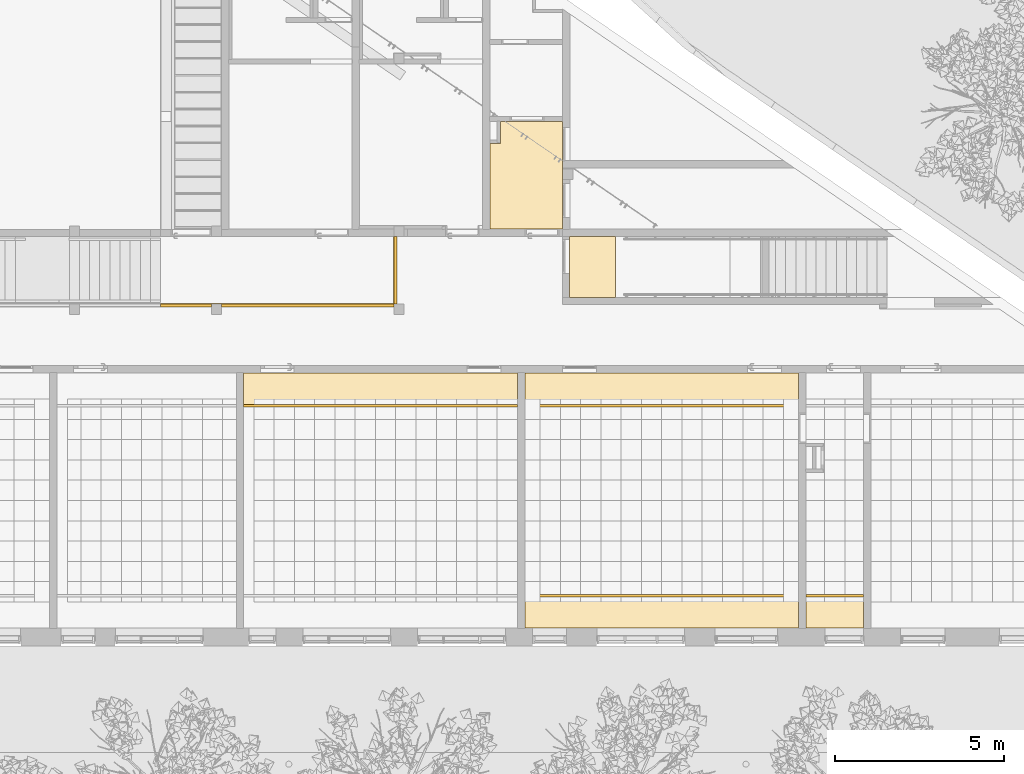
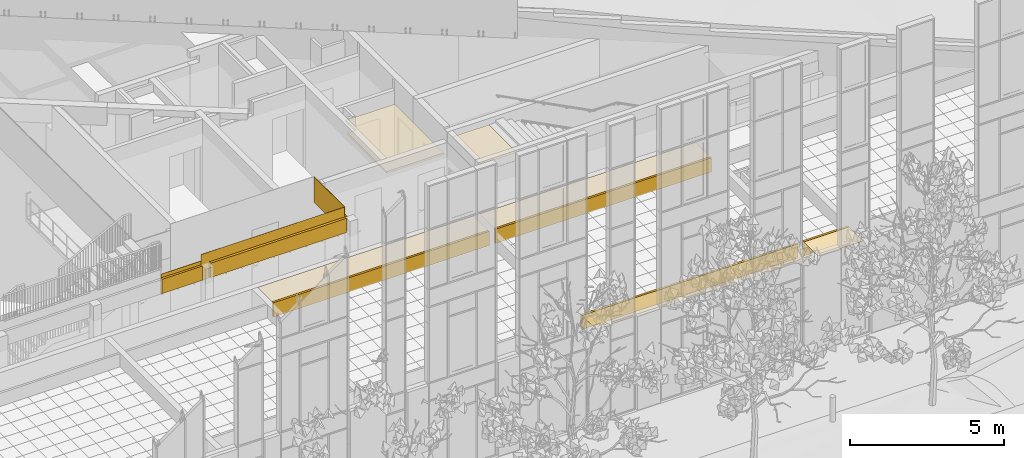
# One storey, part 181 of 246: 13 coverings.
"""IFC2X3 building model written with IfcOpenShell, lengths in millimetres."""

from ifc_helpers import new_model, entity, si_unit, converted_unit, derived_unit, money_unit, direction, frame, origin_with_axes, place, context, subcontext, project, spatial, faceted_brep, material, material_list, type_object, element, save


model = new_model("IFC2X3")

# Units and contexts
model_context = context("Model", 3, precision=0.01, world=origin_with_axes(), true_north=direction((0.0, 1.0)))
body_context = subcontext(model_context, "Body", "Model", "MODEL_VIEW")
ifc_project = project(units=[si_unit("LENGTHUNIT", "METRE", prefix="MILLI"), si_unit("AREAUNIT", "SQUARE_METRE"), si_unit("VOLUMEUNIT", "CUBIC_METRE"), converted_unit("PLANEANGLEUNIT", "DEGREE", entity("IfcPlaneAngleMeasure", 0.0174532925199), si_unit("PLANEANGLEUNIT", "RADIAN"), dimensions=[0, 0, 0, 0, 0, 0, 0]), si_unit("SOLIDANGLEUNIT", "STERADIAN"), money_unit("EUR"), converted_unit("TIMEUNIT", "Year", entity("IfcTimeMeasure", 31556926.0), si_unit("TIMEUNIT", "SECOND"), dimensions=[0, 0, 1, 0, 0, 0, 0]), si_unit("MASSUNIT", "GRAM", prefix="KILO"), si_unit("THERMODYNAMICTEMPERATUREUNIT", "DEGREE_CELSIUS"), si_unit("LUMINOUSINTENSITYUNIT", "LUMEN"), si_unit("ENERGYUNIT", "JOULE", prefix="MEGA"), derived_unit("THERMALCONDUCTANCEUNIT", [(si_unit("POWERUNIT", "WATT"), 1), (si_unit("LENGTHUNIT", "METRE"), -1), (si_unit("THERMODYNAMICTEMPERATUREUNIT", "KELVIN"), -1)]), derived_unit("SPECIFICHEATCAPACITYUNIT", [(si_unit("ENERGYUNIT", "JOULE"), 1), (si_unit("MASSUNIT", "GRAM", prefix="KILO"), -1), (si_unit("THERMODYNAMICTEMPERATUREUNIT", "KELVIN"), -1)]), derived_unit("MASSDENSITYUNIT", [(si_unit("MASSUNIT", "GRAM", prefix="KILO"), 1), (si_unit("VOLUMEUNIT", "CUBIC_METRE"), -1)])], contexts=[model_context])

# Site, building, storey
site_placement = place(None, origin_with_axes())
site = spatial("IfcSite", under=ifc_project, at=site_placement, Name="L.Koidula tn 11b", CompositionType="ELEMENT")
building_placement = place(site_placement, origin_with_axes())
building = spatial("IfcBuilding", under=site, at=building_placement, Name="Rakvere Riigigümnaasium", CompositionType="ELEMENT")
storey_placement = place(building_placement, origin_with_axes())
storey = spatial("IfcBuildingStorey", under=building, at=storey_placement, Name="1.korrus 0,00", CompositionType="ELEMENT", Elevation=0.0)

# Coverings
ifc_material_1 = material(Name="mineraalvill+karkass")
ifc_material_2 = material(Name="SKR-02_Kipsplaat")
ifc_material_list_1 = material_list([ifc_material_1, ifc_material_2])
covering_type_1 = type_object("IfcCoveringType", Name="SA-LV-kips 79", PredefinedType="CEILING")
covering_1_placement = place(storey_placement, frame((74870.015089, 6435.45437174, 2762.5), z_axis=(0.0, 0.0, 1.0), x_axis=(1.0, 0.0, 0.0)))
element("IfcCovering", 1, at=covering_1_placement, inside=storey, type_object=covering_type_1, material=ifc_material_list_1, Name="L-04 vert", PredefinedType="CEILING", context=body_context, shape_type="Brep", body=[
    faceted_brep([(8099.98242188, 12.5, 562.5), (8099.98242188, 78.5, 562.5), (0.0, 78.5, 562.5), (0.0, 12.5, 562.5), (8099.98242188, 12.5, 0.0), (8099.98242188, 78.5, 0.0), (0.0, 78.5, 0.0), (0.0, 12.5, 0.0)], [[[0, 1, 2, 3]], [[0, 4, 5, 1]], [[1, 5, 6, 2]], [[3, 2, 6, 7]], [[4, 0, 3, 7]], [[5, 4, 7, 6]]]),
    faceted_brep([(8099.98242188, 0.0, 562.5), (8099.98242188, 12.5, 562.5), (0.0, 12.5, 562.5), (0.0, 0.0, 562.5), (8099.98242188, 0.0, 0.0), (8099.98242188, 12.5, 0.0), (0.0, 12.5, 0.0), (0.0, 0.0, 0.0)], [[[0, 1, 2, 3]], [[0, 4, 5, 1]], [[1, 5, 6, 2]], [[3, 2, 6, 7]], [[4, 0, 3, 7]], [[5, 4, 7, 6]]]),
])
covering_2_placement = place(storey_placement, frame((74144.4981514, 19860.8917229, 2700.0), z_axis=(0.0, 0.0, 1.0), x_axis=(1.0, 0.0, 0.0)))
element("IfcCovering", 2, at=covering_2_placement, inside=storey, type_object=covering_type_1, material=ifc_material_list_1, Name="L-04", PredefinedType="CEILING", context=body_context, shape_type="Brep", body=[
    faceted_brep([(-304.499998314, 0.0, 12.5), (-304.499998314, 0.0, 78.5), (0.0, 0.0, 78.5), (0.0, 0.0, 12.5), (-304.499998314, -2540.43620038, 12.5), (-304.499998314, -2540.43620038, 78.5), (1835.25951302, -2540.43620038, 78.5), (1835.36865245, 649.50193628, 78.5), (0.0, 649.50193628, 78.5), (0.0, 649.50193628, 12.5), (1835.36865245, 649.50193628, 12.5), (1835.25951302, -2540.43620038, 12.5)], [[[0, 1, 2, 3]], [[4, 5, 1, 0]], [[2, 1, 5, 6, 7, 8]], [[3, 2, 8, 9]], [[3, 9, 10, 11, 4, 0]], [[11, 6, 5, 4]], [[10, 7, 6, 11]], [[9, 8, 7, 10]]]),
    faceted_brep([(0.0, 0.0, 0.0), (-304.499998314, 0.0, 0.0), (-304.499998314, 0.0, 12.5), (0.0, 0.0, 12.5), (0.0, 649.50193628, 0.0), (1835.36865245, 649.50193628, 0.0), (1835.25951302, -2540.43620038, 0.0), (-304.499998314, -2540.43620038, 0.0), (-304.499998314, -2540.43620038, 12.5), (1835.25951302, -2540.43620038, 12.5), (1835.36865245, 649.50193628, 12.5), (0.0, 649.50193628, 12.5)], [[[0, 1, 2, 3]], [[0, 4, 5, 6, 7, 1]], [[1, 7, 8, 2]], [[3, 2, 8, 9, 10, 11]], [[4, 0, 3, 11]], [[5, 4, 11, 10]], [[6, 5, 10, 9]], [[7, 6, 9, 8]]]),
])
covering_3_placement = place(storey_placement, frame((83189.9917918, 6435.45437174, 2762.5), z_axis=(0.0, 0.0, 1.0), x_axis=(1.0, 0.0, 0.0)))
element("IfcCovering", 3, at=covering_3_placement, inside=storey, type_object=covering_type_1, material=ifc_material_list_1, Name="L-04 vert", PredefinedType="CEILING", context=body_context, shape_type="Brep", body=[
    faceted_brep([(1699.99356132, 12.5, 562.5), (1699.99356132, 78.5, 562.5), (0.0, 78.5, 562.5), (0.0, 12.5, 562.5), (1699.99356132, 12.5, 0.0), (1699.99356132, 78.5, 0.0), (0.0, 78.5, 0.0), (0.0, 12.5, 0.0)], [[[0, 1, 2, 3]], [[0, 4, 5, 1]], [[1, 5, 6, 2]], [[3, 2, 6, 7]], [[4, 0, 3, 7]], [[5, 4, 7, 6]]]),
    faceted_brep([(1699.99356132, 0.0, 562.5), (1699.99356132, 12.5, 562.5), (0.0, 12.5, 562.5), (0.0, 0.0, 562.5), (1699.99356132, 0.0, 0.0), (1699.99356132, 12.5, 0.0), (0.0, 12.5, 0.0), (0.0, 0.0, 0.0)], [[[0, 1, 2, 3]], [[0, 4, 5, 1]], [[1, 5, 6, 2]], [[3, 2, 6, 7]], [[4, 0, 3, 7]], [[5, 4, 7, 6]]]),
])
covering_4_placement = place(storey_placement, frame((82969.9975109, 12135.4543717, 2762.5), z_axis=(0.0, 0.0, 1.0), x_axis=(-1.0, 0.0, 0.0)))
element("IfcCovering", 4, at=covering_4_placement, inside=storey, type_object=covering_type_1, material=ifc_material_list_1, Name="L-04 vert", PredefinedType="CEILING", context=body_context, shape_type="Brep", body=[
    faceted_brep([(8099.98242188, 12.5, 562.5), (8099.98242188, 78.5, 562.5), (0.0, 78.5, 562.5), (0.0, 12.5, 562.5), (8099.98242188, 12.5, 0.0), (8099.98242188, 78.5, 0.0), (0.0, 78.5, 0.0), (0.0, 12.5, 0.0)], [[[0, 1, 2, 3]], [[0, 4, 5, 1]], [[1, 5, 6, 2]], [[3, 2, 6, 7]], [[4, 0, 3, 7]], [[5, 4, 7, 6]]]),
    faceted_brep([(8099.98242188, 0.0, 562.5), (8099.98242188, 12.5, 562.5), (0.0, 12.5, 562.5), (0.0, 0.0, 562.5), (8099.98242188, 0.0, 0.0), (8099.98242188, 12.5, 0.0), (0.0, 12.5, 0.0), (0.0, 0.0, 0.0)], [[[0, 1, 2, 3]], [[0, 4, 5, 1]], [[1, 5, 6, 2]], [[3, 2, 6, 7]], [[4, 0, 3, 7]], [[5, 4, 7, 6]]]),
])
covering_5_placement = place(storey_placement, frame((74650.015089, 12135.4543717, 2762.5), z_axis=(0.0, 0.0, 1.0), x_axis=(-1.0, 0.0, 0.0)))
element("IfcCovering", 5, at=covering_5_placement, inside=storey, type_object=covering_type_1, material=ifc_material_list_1, Name="L-04 vert", PredefinedType="CEILING", context=body_context, shape_type="Brep", body=[
    faceted_brep([(8100.00015633, 12.5, 562.5), (8100.00015633, 78.5, 562.5), (0.0, 78.5, 562.5), (0.0, 12.5, 562.5), (8100.00015633, 12.5, 0.0), (8100.00015633, 78.5, 0.0), (0.0, 78.5, 0.0), (0.0, 12.5, 0.0)], [[[0, 1, 2, 3]], [[0, 4, 5, 1]], [[1, 5, 6, 2]], [[3, 2, 6, 7]], [[4, 0, 3, 7]], [[5, 4, 7, 6]]]),
    faceted_brep([(8100.00015633, 0.0, 562.5), (8100.00015633, 12.5, 562.5), (0.0, 12.5, 562.5), (0.0, 0.0, 562.5), (8100.00015633, 0.0, 0.0), (8100.00015633, 12.5, 0.0), (0.0, 12.5, 0.0), (0.0, 0.0, 0.0)], [[[0, 1, 2, 3]], [[0, 4, 5, 1]], [[1, 5, 6, 2]], [[3, 2, 6, 7]], [[4, 0, 3, 7]], [[5, 4, 7, 6]]]),
])
ifc_material_3 = material(Name="Karkass")
ifc_material_4 = material(Name="Kipsplaat")
ifc_material_5 = material(Name="Alumiiniumprofiil")
ifc_material_6 = material(Name="Keraamiline plaat valge")
ifc_material_list_2 = material_list([ifc_material_3, ifc_material_4, ifc_material_5, ifc_material_5, ifc_material_6])
covering_type_2 = type_object("IfcCoveringType", Name="SA-Pinnakate-Ker 99", PredefinedType="CEILING")
covering_6_placement = place(storey_placement, frame((65599.9980729, 15100.4785302, 2700.0), z_axis=(0.0, 0.0, 1.0), x_axis=(-1.0, 0.0, 0.0)))
element("IfcCovering", 6, at=covering_6_placement, inside=storey, type_object=covering_type_2, material=ifc_material_list_2, Name="Pinnakate-keraamiline", PredefinedType="CEILING", context=body_context, shape_type="Brep", body=[
    faceted_brep([(1502.5, 17.5, 0.0), (1502.5, 17.5, 12.0), (1497.5, 17.5, 12.0), (1497.5, 17.5, 0.0), (1502.5, 83.5, 0.0), (1502.5, 83.5, 12.0), (1497.5, 83.5, 12.0), (1497.5, 83.5, 0.0)], [[[0, 1, 2, 3]], [[1, 0, 4, 5]], [[2, 1, 5, 6]], [[3, 2, 6, 7]], [[4, 0, 3, 7]], [[5, 4, 7, 6]]]),
    faceted_brep([(0.0, 83.5, 54.5), (0.0, 17.5, 54.5), (0.0, 17.5, 625.0), (0.0, 83.5, 625.0), (1509.99807258, 17.5, 54.5), (1509.99807258, 83.5, 54.5), (1509.99807258, 17.5, 625.0), (1509.99807258, 83.5, 625.0)], [[[0, 1, 2, 3]], [[4, 1, 0, 5]], [[1, 4, 6, 2]], [[6, 7, 3, 2]], [[5, 0, 3, 7]], [[4, 5, 7, 6]]]),
    faceted_brep([(902.5, 17.5, 0.0), (902.5, 17.5, 12.0), (897.5, 17.5, 12.0), (897.5, 17.5, 0.0), (902.5, 83.5, 0.0), (902.5, 83.5, 12.0), (897.5, 83.5, 12.0), (897.5, 83.5, 0.0)], [[[0, 1, 2, 3]], [[1, 0, 4, 5]], [[2, 1, 5, 6]], [[3, 2, 6, 7]], [[4, 0, 3, 7]], [[5, 4, 7, 6]]]),
    faceted_brep([(302.5, 17.5, 0.0), (302.5, 17.5, 12.0), (297.5, 17.5, 12.0), (297.5, 17.5, 0.0), (302.5, 83.5, 0.0), (302.5, 83.5, 12.0), (297.5, 83.5, 12.0), (297.5, 83.5, 0.0)], [[[0, 1, 2, 3]], [[1, 0, 4, 5]], [[2, 1, 5, 6]], [[3, 2, 6, 7]], [[4, 0, 3, 7]], [[5, 4, 7, 6]]]),
    faceted_brep([(1502.5, 5.0, 0.0), (1502.5, 5.0, 12.0), (1497.5, 5.0, 12.0), (1497.5, 5.0, 0.0), (1502.5, 17.5, 0.0), (1502.5, 17.5, 12.0), (1497.5, 17.5, 12.0), (1497.5, 17.5, 0.0)], [[[0, 1, 2, 3]], [[1, 0, 4, 5]], [[2, 1, 5, 6]], [[3, 2, 6, 7]], [[4, 0, 3, 7]], [[5, 4, 7, 6]]]),
    faceted_brep([(0.0, 17.5, 54.5), (0.0, 5.0, 54.5), (0.0, 5.0, 625.0), (0.0, 17.5, 625.0), (1509.99807258, 5.0, 54.5), (1509.99807258, 17.5, 54.5), (1509.99807258, 5.0, 625.0), (1509.99807258, 17.5, 625.0)], [[[0, 1, 2, 3]], [[4, 1, 0, 5]], [[1, 4, 6, 2]], [[6, 7, 3, 2]], [[5, 0, 3, 7]], [[4, 5, 7, 6]]]),
    faceted_brep([(902.5, 5.0, 0.0), (902.5, 5.0, 12.0), (897.5, 5.0, 12.0), (897.5, 5.0, 0.0), (902.5, 17.5, 0.0), (902.5, 17.5, 12.0), (897.5, 17.5, 12.0), (897.5, 17.5, 0.0)], [[[0, 1, 2, 3]], [[1, 0, 4, 5]], [[2, 1, 5, 6]], [[3, 2, 6, 7]], [[4, 0, 3, 7]], [[5, 4, 7, 6]]]),
    faceted_brep([(302.5, 5.0, 0.0), (302.5, 5.0, 12.0), (297.5, 5.0, 12.0), (297.5, 5.0, 0.0), (302.5, 17.5, 0.0), (302.5, 17.5, 12.0), (297.5, 17.5, 12.0), (297.5, 17.5, 0.0)], [[[0, 1, 2, 3]], [[1, 0, 4, 5]], [[2, 1, 5, 6]], [[3, 2, 6, 7]], [[4, 0, 3, 7]], [[5, 4, 7, 6]]]),
    faceted_brep([(1509.99807258, 0.0230084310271, 54.5), (1509.99807258, 0.0230084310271, 0.0), (1502.5, 0.0230084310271, 0.0), (1502.5, 0.023411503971, 12.0), (1497.5, 0.0234101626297, 12.0), (1497.5, 0.0230084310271, 0.0), (902.5, 0.0230084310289, 0.0), (902.5, 0.0232505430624, 12.0), (897.5, 0.0232492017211, 12.0), (897.5, 0.0230084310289, 0.0), (302.5, 0.0230084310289, 0.0), (302.5, 0.0230895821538, 12.0), (297.5, 0.0230882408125, 12.0), (297.5, 0.0230084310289, 0.0), (0.0, 0.0230084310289, 0.0), (0.0, 0.0230084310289, 54.5), (1509.99807258, 5.0, 54.5), (1509.99807258, 5.0, 625.0), (1509.99807258, 0.0, 625.0), (1509.99807258, 0.0, 0.0), (0.0, 0.0, 0.0), (297.5, 5.0, 0.0), (302.5, 5.0, 0.0), (897.5, 5.0, 0.0), (902.5, 5.0, 0.0), (1497.5, 5.0, 0.0), (1502.5, 5.0, 0.0), (1502.5, 5.0, 12.0), (1497.5, 5.0, 12.0), (902.5, 5.0, 12.0), (897.5, 5.0, 12.0), (302.5, 5.0, 12.0), (297.5, 5.0, 12.0), (0.0, 0.0, 625.0), (0.0, 5.0, 625.0), (0.0, 5.0, 54.5)], [[[0, 1, 2, 3, 4, 5, 6, 7, 8, 9, 10, 11, 12, 13, 14, 15]], [[1, 0, 16, 17, 18, 19]], [[2, 1, 19, 20, 14, 13, 21, 22, 10, 9, 23, 24, 6, 5, 25, 26]], [[2, 26, 27, 3]], [[27, 28, 4, 3]], [[25, 5, 4, 28]], [[6, 24, 29, 7]], [[29, 30, 8, 7]], [[23, 9, 8, 30]], [[10, 22, 31, 11]], [[31, 32, 12, 11]], [[21, 13, 12, 32]], [[14, 20, 33, 34, 35, 15]], [[15, 35, 16, 0]], [[16, 35, 34, 17]], [[18, 17, 34, 33]], [[20, 19, 18, 33]], [[31, 22, 21, 32]], [[29, 24, 23, 30]], [[27, 26, 25, 28]]]),
    faceted_brep([(1509.99807258, -10.0, 0.0), (0.0, -10.0, 0.0), (0.0, 0.0, 0.0), (1509.99807258, 0.0, 0.0), (1509.99807258, -10.0, 770.0), (0.0, -10.0, 770.0), (0.0, 0.0, 770.0), (1509.99807258, 0.0, 770.0)], [[[0, 1, 2, 3]], [[4, 5, 1, 0]], [[1, 5, 6, 2]], [[3, 2, 6, 7]], [[7, 4, 0, 3]], [[7, 6, 5, 4]]]),
    faceted_brep([(0.0, -15.0, 0.0), (0.0, -10.0, 0.0), (1509.99807258, -10.0, 0.0), (1509.99807258, -15.0, 0.0), (0.0, -15.0, 770.0), (0.0, -10.0, 770.0), (1509.99807258, -10.0, 770.0), (1509.99807258, -15.0, 770.0)], [[[0, 1, 2, 3]], [[4, 5, 1, 0]], [[1, 5, 6, 2]], [[7, 3, 2, 6]], [[4, 0, 3, 7]], [[5, 4, 7, 6]]]),
])
covering_7_placement = place(storey_placement, frame((70999.9980729, 15100.4785302, 2700.0), z_axis=(0.0, 0.0, 1.0), x_axis=(-1.0, 0.0, 0.0)))
element("IfcCovering", 7, at=covering_7_placement, inside=storey, type_object=covering_type_2, material=ifc_material_list_2, Name="Pinnakate-keraamiline", PredefinedType="CEILING", context=body_context, shape_type="Brep", body=[
    faceted_brep([(5097.5, 17.5, 12.0), (5097.5, 17.5, 0.0), (5100.0, 17.5, 0.0), (5100.0, 17.5, 12.0), (5097.5, 83.5, 12.0), (5097.5, 83.5, 0.0), (5100.0, 83.5, 0.0), (5100.0, 83.5, 12.0)], [[[0, 1, 2, 3]], [[1, 0, 4, 5]], [[1, 5, 6, 2]], [[7, 3, 2, 6]], [[0, 3, 7, 4]], [[4, 7, 6, 5]]]),
    faceted_brep([(0.0, 83.5, 54.5), (0.0, 17.5, 54.5), (0.0, 17.5, 625.0), (0.0, 83.5, 625.0), (5100.0, 17.5, 54.5), (5100.0, 83.5, 54.5), (5100.0, 17.5, 625.0), (5100.0, 83.5, 625.0)], [[[0, 1, 2, 3]], [[4, 1, 0, 5]], [[1, 4, 6, 2]], [[7, 3, 2, 6]], [[5, 0, 3, 7]], [[4, 5, 7, 6]]]),
    faceted_brep([(4502.5, 17.5, 0.0), (4502.5, 17.5, 12.0), (4497.5, 17.5, 12.0), (4497.5, 17.5, 0.0), (4502.5, 83.5, 0.0), (4502.5, 83.5, 12.0), (4497.5, 83.5, 12.0), (4497.5, 83.5, 0.0)], [[[0, 1, 2, 3]], [[1, 0, 4, 5]], [[2, 1, 5, 6]], [[3, 2, 6, 7]], [[4, 0, 3, 7]], [[5, 4, 7, 6]]]),
    faceted_brep([(3902.5, 17.5, 0.0), (3902.5, 17.5, 12.0), (3897.5, 17.5, 12.0), (3897.5, 17.5, 0.0), (3902.5, 83.5, 0.0), (3902.5, 83.5, 12.0), (3897.5, 83.5, 12.0), (3897.5, 83.5, 0.0)], [[[0, 1, 2, 3]], [[1, 0, 4, 5]], [[2, 1, 5, 6]], [[3, 2, 6, 7]], [[4, 0, 3, 7]], [[5, 4, 7, 6]]]),
    faceted_brep([(3302.5, 17.5, 0.0), (3302.5, 17.5, 12.0), (3297.5, 17.5, 12.0), (3297.5, 17.5, 0.0), (3302.5, 83.5, 0.0), (3302.5, 83.5, 12.0), (3297.5, 83.5, 12.0), (3297.5, 83.5, 0.0)], [[[0, 1, 2, 3]], [[1, 0, 4, 5]], [[2, 1, 5, 6]], [[3, 2, 6, 7]], [[4, 0, 3, 7]], [[5, 4, 7, 6]]]),
    faceted_brep([(2702.5, 17.5, 0.0), (2702.5, 17.5, 12.0), (2697.5, 17.5, 12.0), (2697.5, 17.5, 0.0), (2702.5, 83.5, 0.0), (2702.5, 83.5, 12.0), (2697.5, 83.5, 12.0), (2697.5, 83.5, 0.0)], [[[0, 1, 2, 3]], [[1, 0, 4, 5]], [[2, 1, 5, 6]], [[3, 2, 6, 7]], [[4, 0, 3, 7]], [[5, 4, 7, 6]]]),
    faceted_brep([(2102.5, 17.5, 0.0), (2102.5, 17.5, 12.0), (2097.5, 17.5, 12.0), (2097.5, 17.5, 0.0), (2102.5, 83.5, 0.0), (2102.5, 83.5, 12.0), (2097.5, 83.5, 12.0), (2097.5, 83.5, 0.0)], [[[0, 1, 2, 3]], [[1, 0, 4, 5]], [[2, 1, 5, 6]], [[3, 2, 6, 7]], [[4, 0, 3, 7]], [[5, 4, 7, 6]]]),
    faceted_brep([(1502.5, 17.5, 0.0), (1502.5, 17.5, 12.0), (1497.5, 17.5, 12.0), (1497.5, 17.5, 0.0), (1502.5, 83.5, 0.0), (1502.5, 83.5, 12.0), (1497.5, 83.5, 12.0), (1497.5, 83.5, 0.0)], [[[0, 1, 2, 3]], [[1, 0, 4, 5]], [[2, 1, 5, 6]], [[3, 2, 6, 7]], [[4, 0, 3, 7]], [[5, 4, 7, 6]]]),
    faceted_brep([(902.5, 17.5, 0.0), (902.5, 17.5, 12.0), (897.5, 17.5, 12.0), (897.5, 17.5, 0.0), (902.5, 83.5, 0.0), (902.5, 83.5, 12.0), (897.5, 83.5, 12.0), (897.5, 83.5, 0.0)], [[[0, 1, 2, 3]], [[1, 0, 4, 5]], [[2, 1, 5, 6]], [[3, 2, 6, 7]], [[4, 0, 3, 7]], [[5, 4, 7, 6]]]),
    faceted_brep([(302.5, 17.5, 0.0), (302.5, 17.5, 12.0), (297.5, 17.5, 12.0), (297.5, 17.5, 0.0), (302.5, 83.5, 0.0), (302.5, 83.5, 12.0), (297.5, 83.5, 12.0), (297.5, 83.5, 0.0)], [[[0, 1, 2, 3]], [[1, 0, 4, 5]], [[2, 1, 5, 6]], [[3, 2, 6, 7]], [[4, 0, 3, 7]], [[5, 4, 7, 6]]]),
    faceted_brep([(5097.5, 5.0, 12.0), (5097.5, 5.0, 0.0), (5100.0, 5.0, 0.0), (5100.0, 5.0, 12.0), (5097.5, 17.5, 12.0), (5097.5, 17.5, 0.0), (5100.0, 17.5, 0.0), (5100.0, 17.5, 12.0)], [[[0, 1, 2, 3]], [[1, 0, 4, 5]], [[1, 5, 6, 2]], [[7, 3, 2, 6]], [[0, 3, 7, 4]], [[4, 7, 6, 5]]]),
    faceted_brep([(0.0, 17.5, 54.5), (0.0, 5.0, 54.5), (0.0, 5.0, 625.0), (0.0, 17.5, 625.0), (5100.0, 5.0, 54.5), (5100.0, 17.5, 54.5), (5100.0, 5.0, 625.0), (5100.0, 17.5, 625.0)], [[[0, 1, 2, 3]], [[4, 1, 0, 5]], [[1, 4, 6, 2]], [[7, 3, 2, 6]], [[5, 0, 3, 7]], [[4, 5, 7, 6]]]),
    faceted_brep([(4502.5, 5.0, 0.0), (4502.5, 5.0, 12.0), (4497.5, 5.0, 12.0), (4497.5, 5.0, 0.0), (4502.5, 17.5, 0.0), (4502.5, 17.5, 12.0), (4497.5, 17.5, 12.0), (4497.5, 17.5, 0.0)], [[[0, 1, 2, 3]], [[1, 0, 4, 5]], [[2, 1, 5, 6]], [[3, 2, 6, 7]], [[4, 0, 3, 7]], [[5, 4, 7, 6]]]),
    faceted_brep([(3902.5, 5.0, 0.0), (3902.5, 5.0, 12.0), (3897.5, 5.0, 12.0), (3897.5, 5.0, 0.0), (3902.5, 17.5, 0.0), (3902.5, 17.5, 12.0), (3897.5, 17.5, 12.0), (3897.5, 17.5, 0.0)], [[[0, 1, 2, 3]], [[1, 0, 4, 5]], [[2, 1, 5, 6]], [[3, 2, 6, 7]], [[4, 0, 3, 7]], [[5, 4, 7, 6]]]),
    faceted_brep([(3302.5, 5.0, 0.0), (3302.5, 5.0, 12.0), (3297.5, 5.0, 12.0), (3297.5, 5.0, 0.0), (3302.5, 17.5, 0.0), (3302.5, 17.5, 12.0), (3297.5, 17.5, 12.0), (3297.5, 17.5, 0.0)], [[[0, 1, 2, 3]], [[1, 0, 4, 5]], [[2, 1, 5, 6]], [[3, 2, 6, 7]], [[4, 0, 3, 7]], [[5, 4, 7, 6]]]),
    faceted_brep([(2702.5, 5.0, 0.0), (2702.5, 5.0, 12.0), (2697.5, 5.0, 12.0), (2697.5, 5.0, 0.0), (2702.5, 17.5, 0.0), (2702.5, 17.5, 12.0), (2697.5, 17.5, 12.0), (2697.5, 17.5, 0.0)], [[[0, 1, 2, 3]], [[1, 0, 4, 5]], [[2, 1, 5, 6]], [[3, 2, 6, 7]], [[4, 0, 3, 7]], [[5, 4, 7, 6]]]),
    faceted_brep([(2102.5, 5.0, 0.0), (2102.5, 5.0, 12.0), (2097.5, 5.0, 12.0), (2097.5, 5.0, 0.0), (2102.5, 17.5, 0.0), (2102.5, 17.5, 12.0), (2097.5, 17.5, 12.0), (2097.5, 17.5, 0.0)], [[[0, 1, 2, 3]], [[1, 0, 4, 5]], [[2, 1, 5, 6]], [[3, 2, 6, 7]], [[4, 0, 3, 7]], [[5, 4, 7, 6]]]),
    faceted_brep([(1502.5, 5.0, 0.0), (1502.5, 5.0, 12.0), (1497.5, 5.0, 12.0), (1497.5, 5.0, 0.0), (1502.5, 17.5, 0.0), (1502.5, 17.5, 12.0), (1497.5, 17.5, 12.0), (1497.5, 17.5, 0.0)], [[[0, 1, 2, 3]], [[1, 0, 4, 5]], [[2, 1, 5, 6]], [[3, 2, 6, 7]], [[4, 0, 3, 7]], [[5, 4, 7, 6]]]),
    faceted_brep([(902.5, 5.0, 0.0), (902.5, 5.0, 12.0), (897.5, 5.0, 12.0), (897.5, 5.0, 0.0), (902.5, 17.5, 0.0), (902.5, 17.5, 12.0), (897.5, 17.5, 12.0), (897.5, 17.5, 0.0)], [[[0, 1, 2, 3]], [[1, 0, 4, 5]], [[2, 1, 5, 6]], [[3, 2, 6, 7]], [[4, 0, 3, 7]], [[5, 4, 7, 6]]]),
    faceted_brep([(302.5, 5.0, 0.0), (302.5, 5.0, 12.0), (297.5, 5.0, 12.0), (297.5, 5.0, 0.0), (302.5, 17.5, 0.0), (302.5, 17.5, 12.0), (297.5, 17.5, 12.0), (297.5, 17.5, 0.0)], [[[0, 1, 2, 3]], [[1, 0, 4, 5]], [[2, 1, 5, 6]], [[3, 2, 6, 7]], [[4, 0, 3, 7]], [[5, 4, 7, 6]]]),
    faceted_brep([(5097.5, 5.0, 0.0), (5100.0, 5.0, 0.0), (5100.0, 0.0, 0.0), (5097.5, 0.0, 0.0), (5097.5, 5.0, 12.0), (5100.0, 5.0, 12.0), (5100.0, 0.0, 12.0), (5097.5, 0.00136749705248, 12.0)], [[[0, 1, 2, 3]], [[1, 0, 4, 5]], [[1, 5, 6, 2]], [[6, 7, 3, 2]], [[4, 0, 3, 7]], [[5, 4, 7, 6]]]),
    faceted_brep([(4497.5, 5.0, 0.0), (4502.5, 5.0, 0.0), (4502.5, 0.0, 0.0), (4497.5, 0.0, 0.0), (4497.5, 5.0, 12.0), (4502.5, 5.0, 12.0), (4502.5, 0.00120787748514, 12.0), (4497.5, 0.00120653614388, 12.0)], [[[0, 1, 2, 3]], [[1, 0, 4, 5]], [[1, 5, 6, 2]], [[7, 3, 2, 6]], [[4, 0, 3, 7]], [[5, 4, 7, 6]]]),
    faceted_brep([(3902.5, 5.0, 0.0), (3902.5, 0.0, 0.0), (3897.5, 0.0, 0.0), (3897.5, 5.0, 0.0), (3902.5, 5.0, 12.0), (3902.5, 0.00104691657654, 12.0), (3897.5, 0.00104557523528, 12.0), (3897.5, 5.0, 12.0)], [[[0, 1, 2, 3]], [[1, 0, 4, 5]], [[1, 5, 6, 2]], [[7, 3, 2, 6]], [[4, 0, 3, 7]], [[4, 7, 6, 5]]]),
    faceted_brep([(3297.5, 5.0, 0.0), (3302.5, 5.0, 0.0), (3302.5, 0.0, 0.0), (3297.5, 0.0, 0.0), (3302.5, 5.0, 12.0), (3297.5, 5.0, 12.0), (3302.5, 0.00088595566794, 12.0), (3297.5, 0.000884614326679, 12.0)], [[[0, 1, 2, 3]], [[4, 1, 0, 5]], [[1, 4, 6, 2]], [[6, 7, 3, 2]], [[5, 0, 3, 7]], [[4, 5, 7, 6]]]),
    faceted_brep([(2702.5, 5.0, 0.0), (2702.5, 0.0, 0.0), (2697.5, 0.0, 0.0), (2697.5, 5.0, 0.0), (2702.5, 5.0, 12.0), (2702.5, 0.000724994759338, 12.0), (2697.5, 0.000723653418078, 12.0), (2697.5, 5.0, 12.0)], [[[0, 1, 2, 3]], [[1, 0, 4, 5]], [[1, 5, 6, 2]], [[7, 3, 2, 6]], [[4, 0, 3, 7]], [[6, 5, 4, 7]]]),
    faceted_brep([(2102.5, 0.000564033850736, 12.0), (2097.5, 0.000562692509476, 12.0), (2097.5, 0.0, 0.0), (2102.5, 0.0, 0.0), (2102.5, 5.0, 12.0), (2097.5, 5.0, 12.0), (2097.5, 5.0, 0.0), (2102.5, 5.0, 0.0)], [[[0, 1, 2, 3]], [[4, 5, 1, 0]], [[5, 6, 2, 1]], [[6, 7, 3, 2]], [[7, 4, 0, 3]], [[4, 7, 6, 5]]]),
    faceted_brep([(1502.5, 5.0, 0.0), (1502.5, 0.0, 0.0), (1497.5, 0.0, 0.0), (1497.5, 5.0, 0.0), (1502.5, 5.0, 12.0), (1502.5, 0.000403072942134, 12.0), (1497.5, 0.000401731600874, 12.0), (1497.5, 5.0, 12.0)], [[[0, 1, 2, 3]], [[0, 4, 5, 1]], [[5, 6, 2, 1]], [[7, 3, 2, 6]], [[4, 0, 3, 7]], [[4, 7, 6, 5]]]),
    faceted_brep([(897.5, 5.0, 0.0), (902.5, 5.0, 0.0), (902.5, 0.0, 0.0), (897.5, 0.0, 0.0), (897.5, 5.0, 12.0), (902.5, 5.0, 12.0), (902.5, 0.000242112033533, 12.0), (897.5, 0.000240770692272, 12.0)], [[[0, 1, 2, 3]], [[1, 0, 4, 5]], [[1, 5, 6, 2]], [[6, 7, 3, 2]], [[4, 0, 3, 7]], [[5, 4, 7, 6]]]),
    faceted_brep([(297.5, 5.0, 0.0), (302.5, 5.0, 0.0), (302.5, 0.0, 0.0), (297.5, 0.0, 0.0), (297.5, 5.0, 12.0), (302.5, 5.0, 12.0), (302.5, 8.1151124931e-05, 12.0), (297.5, 7.98097836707e-05, 12.0)], [[[0, 1, 2, 3]], [[0, 4, 5, 1]], [[1, 5, 6, 2]], [[2, 6, 7, 3]], [[4, 0, 3, 7]], [[5, 4, 7, 6]]]),
    faceted_brep([(5100.0, 5.0, 54.5), (5100.0, 5.0, 625.0), (5100.0, 0.0, 625.0), (5100.0, 0.0, 54.5), (5100.0, 0.0230084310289, 54.5), (0.0, 5.0, 54.5), (0.0, 5.0, 625.0), (0.0, 0.0, 625.0), (0.0, 0.0, 54.5)], [[[0, 1, 2, 3, 4]], [[1, 0, 5, 6]], [[2, 1, 6, 7]], [[3, 2, 7, 8]], [[0, 4, 3, 8, 5]], [[6, 5, 8, 7]]]),
    faceted_brep([(5400.0, 0.0, 0.0), (5400.0, -10.0, 0.0), (0.0, -10.0, 0.0), (0.0, 0.0, 0.0), (5400.0, 0.0, 1020.0), (5400.0, -10.0, 1020.0), (5100.00007033, -10.0, 1020.0), (5100.00007033, -10.0, 625.0), (0.0, -10.0, 625.0), (0.0, 0.0, 625.0), (5100.00007033, 0.0, 625.0), (5100.00007033, 0.0, 1020.0)], [[[0, 1, 2, 3]], [[0, 4, 5, 1]], [[1, 5, 6, 7, 8, 2]], [[9, 3, 2, 8]], [[4, 0, 3, 9, 10, 11]], [[4, 11, 6, 5]], [[11, 10, 7, 6]], [[7, 10, 9, 8]]]),
    faceted_brep([(10.0, -15.0, 0.0), (10.0, -10.0, 0.0), (5400.0, -10.0, 0.0), (5400.0, -15.0, 0.0), (10.0, -15.0, 1020.0), (10.0, -10.0, 1020.0), (5400.0, -10.0, 1020.0), (5400.0, -15.0, 1020.0)], [[[0, 1, 2, 3]], [[4, 5, 1, 0]], [[1, 5, 6, 2]], [[7, 3, 2, 6]], [[4, 0, 3, 7]], [[5, 4, 7, 6]]]),
])
ifc_material_list_3 = material_list([ifc_material_6, ifc_material_5, ifc_material_5, ifc_material_4, ifc_material_3])
covering_8_placement = place(storey_placement, frame((70999.9980729, 15100.4785302, 2700.0), z_axis=(0.0, 0.0, 1.0), x_axis=(0.0, 1.0, 0.0)))
element("IfcCovering", 8, at=covering_8_placement, inside=storey, type_object=covering_type_2, material=ifc_material_list_3, Name="Pinnakate-keraamiline", PredefinedType="CEILING", context=body_context, shape_type="Brep", body=[
    faceted_brep([(15.0, 15.0, 1020.0), (15.0, 10.0, 1020.0), (1999.97696827, 10.0, 1020.0), (1999.97696827, 15.0, 1020.0), (15.0, 15.0, 0.0), (15.0, 10.0, 0.0), (1999.97696827, 10.0, 0.0), (1999.97696827, 15.0, 0.0)], [[[0, 1, 2, 3]], [[4, 5, 1, 0]], [[1, 5, 6, 2]], [[7, 3, 2, 6]], [[4, 0, 3, 7]], [[5, 4, 7, 6]]]),
    faceted_brep([(1999.97696827, 10.0, 1020.0), (10.0, 10.0, 1020.0), (10.0, 0.0, 1020.0), (1999.97696827, 0.0, 1020.0), (1999.97696827, 10.0, 0.0), (10.0, 10.0, 0.0), (10.0, 0.0, 0.0), (1999.97696827, 0.0, 0.0)], [[[0, 1, 2, 3]], [[4, 5, 1, 0]], [[1, 5, 6, 2]], [[3, 2, 6, 7]], [[7, 4, 0, 3]], [[7, 6, 5, 4]]]),
    faceted_brep([(1497.49999512, -5.0, 12.0), (1497.49999512, -5.0, 0.0), (1502.49999512, -5.0, 0.0), (1502.49999512, -5.0, 12.0), (1497.49999512, -1.0, 12.0), (1497.49999512, -1.0, 0.0), (1502.49999512, -1.0, 0.0), (902.499995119, -1.0, 0.0), (902.499995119, -5.0, 0.0), (897.499995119, -5.0, 0.0), (897.499995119, -1.0, 0.0), (302.499995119, -1.0, 0.0), (302.499995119, -5.0, 0.0), (297.499995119, -5.0, 0.0), (297.499995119, -1.0, 0.0), (0.0, -1.0, 0.0), (0.0, 0.0, 0.0), (1999.97696827, 0.0, 0.0), (1999.9769923, -1.0, 0.0), (1502.49999512, -1.0, 12.0), (297.499995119, -1.0, 12.0), (302.499995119, -1.0, 12.0), (897.499995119, -1.0, 12.0), (902.499995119, -1.0, 12.0), (1999.9769923, -1.0, 54.5), (0.0, -1.0, 54.5), (902.499995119, -5.0, 12.0), (897.499995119, -5.0, 12.0), (302.499995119, -5.0, 12.0), (297.499995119, -5.0, 12.0), (0.0, -5.0, 54.5), (0.0, -5.0, 625.0), (0.0, 0.0, 625.0), (10.0, 0.0, 625.0), (1999.97696827, 0.0, 625.0), (1999.97696827, -5.0, 625.0), (1999.9769923, -5.0, 54.5)], [[[0, 1, 2, 3]], [[1, 0, 4, 5]], [[6, 2, 1, 5, 7, 8, 9, 10, 11, 12, 13, 14, 15, 16, 17, 18]], [[3, 2, 6, 19]], [[0, 3, 19, 4]], [[15, 14, 20, 21, 11, 10, 22, 23, 7, 5, 4, 19, 6, 18, 24, 25]], [[26, 8, 7, 23]], [[27, 9, 8, 26]], [[9, 27, 22, 10]], [[28, 12, 11, 21]], [[29, 13, 12, 28]], [[13, 29, 20, 14]], [[15, 25, 30, 31, 32, 16]], [[17, 16, 32, 33, 34]], [[18, 17, 34, 35, 36, 24]], [[29, 28, 21, 20]], [[27, 26, 23, 22]], [[24, 36, 30, 25]], [[30, 36, 35, 31]], [[35, 34, 33, 32, 31]]]),
    faceted_brep([(297.499995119, -17.5, 12.0), (297.499995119, -17.5, 0.0), (302.499995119, -17.5, 0.0), (302.499995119, -17.5, 12.0), (297.499995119, -5.0, 12.0), (297.499995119, -5.0, 0.0), (302.499995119, -5.0, 0.0), (302.499995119, -5.0, 12.0)], [[[0, 1, 2, 3]], [[1, 0, 4, 5]], [[6, 2, 1, 5]], [[3, 2, 6, 7]], [[0, 3, 7, 4]], [[7, 6, 5, 4]]]),
    faceted_brep([(0.0, -17.5, 54.5), (1999.9769923, -17.5, 54.5), (1999.97696827, -17.5, 625.0), (0.0, -17.5, 625.0), (1999.9769923, -5.0, 54.5), (0.0, -5.0, 54.5), (1999.97696827, -5.0, 625.0), (0.0, -5.0, 625.0)], [[[0, 1, 2, 3]], [[4, 1, 0, 5]], [[1, 4, 6, 2]], [[6, 7, 3, 2]], [[5, 0, 3, 7]], [[4, 5, 7, 6]]]),
    faceted_brep([(897.499995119, -17.5, 12.0), (897.499995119, -17.5, 0.0), (902.499995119, -17.5, 0.0), (902.499995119, -17.5, 12.0), (897.499995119, -5.0, 12.0), (897.499995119, -5.0, 0.0), (902.499995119, -5.0, 0.0), (902.499995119, -5.0, 12.0)], [[[0, 1, 2, 3]], [[1, 0, 4, 5]], [[6, 2, 1, 5]], [[3, 2, 6, 7]], [[0, 3, 7, 4]], [[7, 6, 5, 4]]]),
    faceted_brep([(1497.49999512, -17.5, 12.0), (1497.49999512, -17.5, 0.0), (1502.49999512, -17.5, 0.0), (1502.49999512, -17.5, 12.0), (1497.49999512, -5.0, 12.0), (1497.49999512, -5.0, 0.0), (1502.49999512, -5.0, 0.0), (1502.49999512, -5.0, 12.0)], [[[0, 1, 2, 3]], [[1, 0, 4, 5]], [[6, 2, 1, 5]], [[3, 2, 6, 7]], [[0, 3, 7, 4]], [[7, 6, 5, 4]]]),
    faceted_brep([(297.499995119, -83.5, 12.0), (297.499995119, -83.5, 0.0), (302.499995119, -83.5, 0.0), (302.499995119, -83.5, 12.0), (297.499995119, -17.5, 12.0), (297.499995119, -17.5, 0.0), (302.499995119, -17.5, 0.0), (302.499995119, -17.5, 12.0)], [[[0, 1, 2, 3]], [[1, 0, 4, 5]], [[6, 2, 1, 5]], [[3, 2, 6, 7]], [[0, 3, 7, 4]], [[7, 6, 5, 4]]]),
    faceted_brep([(0.0, -83.5, 54.5), (1999.9769923, -83.5, 54.5), (1999.97696827, -83.5, 625.0), (0.0, -83.5, 625.0), (1999.9769923, -17.5, 54.5), (0.0, -17.5, 54.5), (1999.97696827, -17.5, 625.0), (0.0, -17.5, 625.0)], [[[0, 1, 2, 3]], [[4, 1, 0, 5]], [[1, 4, 6, 2]], [[6, 7, 3, 2]], [[5, 0, 3, 7]], [[4, 5, 7, 6]]]),
    faceted_brep([(897.499995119, -83.5, 12.0), (897.499995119, -83.5, 0.0), (902.499995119, -83.5, 0.0), (902.499995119, -83.5, 12.0), (897.499995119, -17.5, 12.0), (897.499995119, -17.5, 0.0), (902.499995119, -17.5, 0.0), (902.499995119, -17.5, 12.0)], [[[0, 1, 2, 3]], [[1, 0, 4, 5]], [[6, 2, 1, 5]], [[3, 2, 6, 7]], [[0, 3, 7, 4]], [[7, 6, 5, 4]]]),
    faceted_brep([(1497.49999512, -83.5, 12.0), (1497.49999512, -83.5, 0.0), (1502.49999512, -83.5, 0.0), (1502.49999512, -83.5, 12.0), (1497.49999512, -17.5, 12.0), (1497.49999512, -17.5, 0.0), (1502.49999512, -17.5, 0.0), (1502.49999512, -17.5, 12.0)], [[[0, 1, 2, 3]], [[1, 0, 4, 5]], [[6, 2, 1, 5]], [[3, 2, 6, 7]], [[0, 3, 7, 4]], [[7, 6, 5, 4]]]),
])
ifc_material_7 = material(Name="Salto-siseviimistlus-ripplagi")
covering_type_3 = type_object("IfcCoveringType", Name="Salto-siseviimistlus-ripplagi 1", PredefinedType="CLADDING")
covering_9_placement = place(storey_placement, frame((66550.0149327, 12135.4543717, 3325.0), z_axis=(0.0, 0.0, 1.0), x_axis=(1.0, 0.0, 0.0)))
element("IfcCovering", 9, at=covering_9_placement, inside=storey, type_object=covering_type_3, material=ifc_material_7, Name="L-09", PredefinedType="CLADDING", context=body_context, shape_type="Brep", body=[
    faceted_brep([(0.0, 0.0, 0.0), (0.0, 0.0, -1.0), (8100.00015633, 0.0, -1.0), (8100.00015633, 0.0, 0.0), (0.0, 934.994481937, 0.0), (0.0, 934.994481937, -1.0), (8100.00015633, 934.994481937, -1.0), (8100.00015633, 934.994481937, 0.0)], [[[0, 1, 2, 3]], [[4, 5, 1, 0]], [[2, 1, 5, 6]], [[3, 2, 6, 7]], [[4, 0, 3, 7]], [[7, 6, 5, 4]]]),
])
covering_10_placement = place(storey_placement, frame((74870.015089, 12135.4543717, 3325.0), z_axis=(0.0, 0.0, 1.0), x_axis=(1.0, 0.0, 0.0)))
element("IfcCovering", 10, at=covering_10_placement, inside=storey, type_object=covering_type_3, material=ifc_material_7, Name="L-09", PredefinedType="CLADDING", context=body_context, shape_type="Brep", body=[
    faceted_brep([(0.0, 0.0, 0.0), (0.0, 0.0, -1.0), (8099.98242188, 0.0, -1.0), (8099.98242188, 0.0, 0.0), (0.0, 934.996713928, 0.0), (0.0, 934.996713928, -1.0), (8099.98242188, 934.996713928, -1.0), (8099.98242188, 934.996713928, 0.0)], [[[0, 1, 2, 3]], [[4, 5, 1, 0]], [[2, 1, 5, 6]], [[3, 2, 6, 7]], [[4, 0, 3, 7]], [[7, 6, 5, 4]]]),
])
covering_11_placement = place(storey_placement, frame((74870.015089, 5510.45553887, 3325.0), z_axis=(0.0, 0.0, 1.0), x_axis=(1.0, 0.0, 0.0)))
element("IfcCovering", 11, at=covering_11_placement, inside=storey, type_object=covering_type_3, material=ifc_material_7, Name="L-09", PredefinedType="CLADDING", context=body_context, shape_type="Brep", body=[
    faceted_brep([(0.0, 0.0, 0.0), (0.0, 0.0, -1.0), (8099.98242188, 0.0, -1.0), (8099.98242188, 0.0, 0.0), (0.0, 924.998832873, 0.0), (0.0, 924.998832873, -1.0), (8099.98242188, 924.998832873, -1.0), (8099.98242188, 924.998832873, 0.0)], [[[0, 1, 2, 3]], [[4, 5, 1, 0]], [[2, 1, 5, 6]], [[3, 2, 6, 7]], [[4, 0, 3, 7]], [[7, 6, 5, 4]]]),
])
covering_12_placement = place(storey_placement, frame((83190.2975109, 5510.45553887, 3325.0), z_axis=(0.0, 0.0, 1.0), x_axis=(1.0, 0.0, 0.0)))
element("IfcCovering", 12, at=covering_12_placement, inside=storey, type_object=covering_type_3, material=ifc_material_7, Name="L-09", PredefinedType="CLADDING", context=body_context, shape_type="Brep", body=[
    faceted_brep([(0.0, 0.0, 0.0), (0.0, 0.0, -1.0), (1699.98784221, 0.0, -1.0), (1699.98784221, 0.0, 0.0), (0.0, 924.998832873, 0.0), (0.0, 924.998832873, -1.0), (1699.98784221, 924.998832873, -1.0), (1699.98784221, 924.998832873, 0.0)], [[[0, 1, 2, 3]], [[4, 5, 1, 0]], [[2, 1, 5, 6]], [[3, 2, 6, 7]], [[4, 0, 3, 7]], [[7, 6, 5, 4]]]),
])
ifc_material_8 = material(Name="Tolmutõke")
covering_type_4 = type_object("IfcCoveringType", Name="Tolmutõke 1", PredefinedType="CLADDING")
covering_13_placement = place(storey_placement, frame((76190.108686, 17110.455475, 3470.0), z_axis=(0.0, 0.0, 1.0), x_axis=(1.0, 0.0, 0.0)))
element("IfcCovering", 13, at=covering_13_placement, inside=storey, type_object=covering_type_4, material=ifc_material_8, Name="L-07", PredefinedType="CLADDING", context=body_context, shape_type="Brep", body=[
    faceted_brep([(0.0, 0.0, 0.0), (0.0, 0.0, -1.0), (0.0, -1810.00027625, -1.0), (0.0, -1810.00027625, 0.0), (1357.72887966, 0.0, 0.0), (1357.72887966, 0.0, -1.0), (1357.72887966, -1809.99335699, -1.0), (1357.72887966, -1809.99335699, 0.0)], [[[0, 1, 2, 3]], [[4, 5, 1, 0]], [[2, 1, 5, 6]], [[3, 2, 6, 7]], [[4, 0, 3, 7]], [[7, 6, 5, 4]]]),
])

save(model, "model.ifc")
